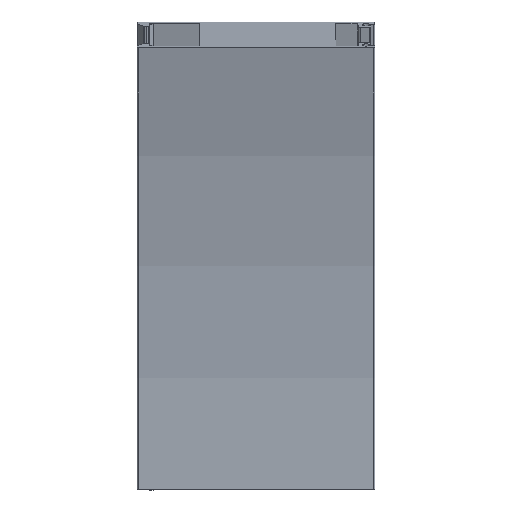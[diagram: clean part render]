
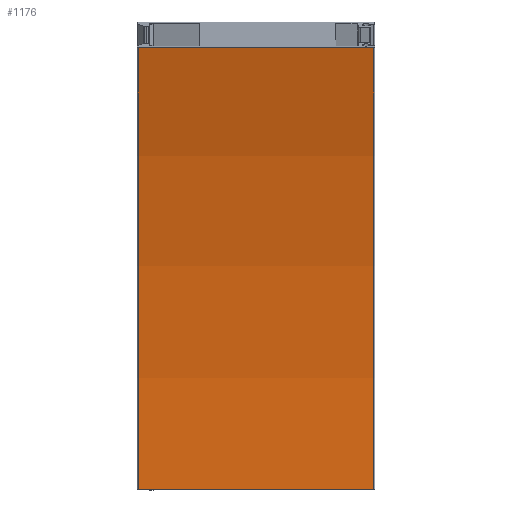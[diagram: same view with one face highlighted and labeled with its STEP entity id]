
A CAD part, left-side view. The second image highlights one B-rep face of the part: STEP entity #1176.
In plain terms, the highlighted cylindrical face has radius 572.2 mm (diameter 1144.4 mm), a partial arc.
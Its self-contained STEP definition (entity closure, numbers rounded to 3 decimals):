
#36=CYLINDRICAL_SURFACE('',#1333,572.2);
#59=LINE('',#2014,#127);
#60=LINE('',#2016,#128);
#127=VECTOR('',#1587,10.);
#128=VECTOR('',#1588,10.);
#216=FACE_OUTER_BOUND('',#282,.T.);
#282=EDGE_LOOP('',(#821,#822,#823,#824));
#366=CIRCLE('',#1332,572.2);
#367=CIRCLE('',#1334,572.2);
#481=VERTEX_POINT('',#2007);
#482=VERTEX_POINT('',#2009);
#483=VERTEX_POINT('',#2013);
#484=VERTEX_POINT('',#2015);
#620=EDGE_CURVE('',#481,#482,#366,.T.);
#621=EDGE_CURVE('',#483,#481,#59,.T.);
#622=EDGE_CURVE('',#484,#482,#60,.T.);
#623=EDGE_CURVE('',#483,#484,#367,.T.);
#821=ORIENTED_EDGE('',*,*,#621,.T.);
#822=ORIENTED_EDGE('',*,*,#620,.T.);
#823=ORIENTED_EDGE('',*,*,#622,.F.);
#824=ORIENTED_EDGE('',*,*,#623,.F.);
#1176=ADVANCED_FACE('',(#216),#36,.F.);
#1332=AXIS2_PLACEMENT_3D('',#2011,#1583,#1584);
#1333=AXIS2_PLACEMENT_3D('',#2012,#1585,#1586);
#1334=AXIS2_PLACEMENT_3D('',#2017,#1589,#1590);
#1583=DIRECTION('center_axis',(0.,-1.,0.));
#1584=DIRECTION('ref_axis',(1.,0.,0.));
#1585=DIRECTION('center_axis',(0.,-1.,0.));
#1586=DIRECTION('ref_axis',(1.,0.,0.));
#1587=DIRECTION('',(0.,-1.,0.));
#1588=DIRECTION('',(0.,-1.,0.));
#1589=DIRECTION('center_axis',(0.,-1.,0.));
#1590=DIRECTION('ref_axis',(1.,0.,0.));
#2007=CARTESIAN_POINT('',(-18.595,-41.736,0.));
#2009=CARTESIAN_POINT('',(-46.6,-41.736,176.82));
#2011=CARTESIAN_POINT('Origin',(-590.795,-41.736,0.));
#2012=CARTESIAN_POINT('Origin',(-590.795,5.314,0.));
#2013=CARTESIAN_POINT('',(-18.595,52.364,0.));
#2014=CARTESIAN_POINT('',(-18.595,52.364,0.));
#2015=CARTESIAN_POINT('',(-46.6,52.364,176.82));
#2016=CARTESIAN_POINT('',(-46.6,52.364,176.82));
#2017=CARTESIAN_POINT('Origin',(-590.795,52.364,0.));
